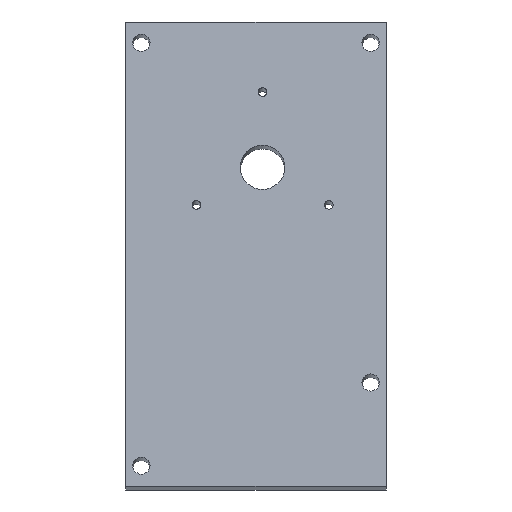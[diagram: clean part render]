
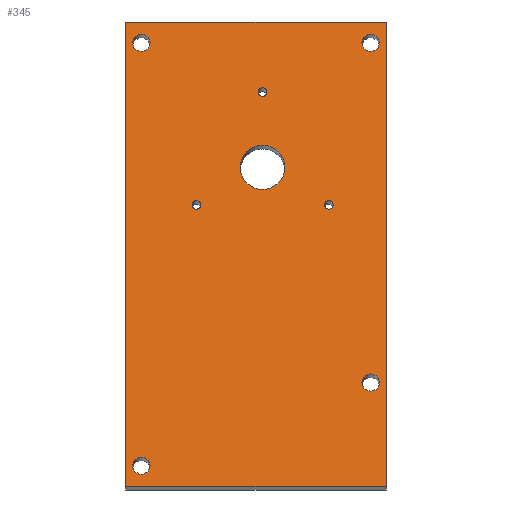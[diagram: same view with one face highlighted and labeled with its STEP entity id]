
A CAD part, front view. The second image highlights one B-rep face of the part: STEP entity #345.
In plain terms, the highlighted planar face has unit normal (0, -0.985, 0.174).
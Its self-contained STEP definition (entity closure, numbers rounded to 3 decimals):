
#37=CARTESIAN_POINT('',(-446.5,195.972,1570.117));
#38=VERTEX_POINT('',#37);
#45=CARTESIAN_POINT('',(-545.5,195.972,1570.117));
#46=VERTEX_POINT('',#45);
#47=CARTESIAN_POINT('',(-545.5,195.972,1570.117));
#48=DIRECTION('',(1.0,0.0,0.0));
#49=VECTOR('',#48,1.);
#50=LINE('',#47,#49);
#51=EDGE_CURVE('',#46,#38,#50,.T.);
#75=CARTESIAN_POINT('',(-446.5,227.041,1746.314));
#76=VERTEX_POINT('',#75);
#83=CARTESIAN_POINT('',(-446.5,195.972,1570.117));
#84=DIRECTION('',(0.,0.174,0.985));
#85=VECTOR('',#84,1.);
#86=LINE('',#83,#85);
#87=EDGE_CURVE('',#38,#76,#86,.T.);
#106=CARTESIAN_POINT('',(-545.5,227.041,1746.314));
#107=VERTEX_POINT('',#106);
#114=CARTESIAN_POINT('',(-446.5,227.041,1746.314));
#115=DIRECTION('',(-1.0,0.,0.));
#116=VECTOR('',#115,1.);
#117=LINE('',#114,#116);
#118=EDGE_CURVE('',#76,#107,#117,.T.);
#136=CARTESIAN_POINT('',(-545.5,227.041,1746.314));
#137=DIRECTION('',(0.,-0.174,-0.985));
#138=VECTOR('',#137,1.);
#139=LINE('',#136,#138);
#140=EDGE_CURVE('',#107,#46,#139,.T.);
#246=CARTESIAN_POINT('',(-545.5,195.972,1570.117));
#247=DIRECTION('',(0.0,-0.985,0.174));
#248=DIRECTION('',(1.0,0.0,0.0));
#249=AXIS2_PLACEMENT_3D('',#246,#247,#248);
#250=PLANE('',#249);
#251=ORIENTED_EDGE('',*,*,#51,.T.);
#252=ORIENTED_EDGE('',*,*,#87,.T.);
#253=ORIENTED_EDGE('',*,*,#118,.T.);
#254=ORIENTED_EDGE('',*,*,#140,.T.);
#255=EDGE_LOOP('',(#251,#252,#253,#254));
#256=FACE_OUTER_BOUND('',#255,.T.);
#257=CARTESIAN_POINT('',(-485.0,217.316,1691.165));
#258=VERTEX_POINT('',#257);
#259=CARTESIAN_POINT('',(-493.5,217.316,1691.165));
#260=DIRECTION('',(0.0,-0.985,0.174));
#261=DIRECTION('',(1.0,0.0,0.0));
#262=AXIS2_PLACEMENT_3D('',#259,#260,#261);
#263=CIRCLE('',#262,8.5);
#264=EDGE_CURVE('',#258,#258,#263,.T.);
#265=ORIENTED_EDGE('',*,*,#264,.F.);
#266=EDGE_LOOP('',(#265));
#267=FACE_BOUND('',#266,.T.);
#268=CARTESIAN_POINT('',(-491.85,222.352,1719.724));
#269=VERTEX_POINT('',#268);
#270=CARTESIAN_POINT('',(-493.5,222.352,1719.724));
#271=DIRECTION('',(0.0,0.985,-0.174));
#272=DIRECTION('',(1.0,0.0,0.0));
#273=AXIS2_PLACEMENT_3D('',#270,#271,#272);
#274=CIRCLE('',#273,1.65);
#275=EDGE_CURVE('',#269,#269,#274,.T.);
#276=ORIENTED_EDGE('',*,*,#275,.T.);
#277=EDGE_LOOP('',(#276));
#278=FACE_BOUND('',#277,.T.);
#279=CARTESIAN_POINT('',(-516.965,214.799,1676.885));
#280=VERTEX_POINT('',#279);
#281=CARTESIAN_POINT('',(-518.615,214.799,1676.885));
#282=DIRECTION('',(0.0,0.985,-0.174));
#283=DIRECTION('',(1.0,0.0,0.0));
#284=AXIS2_PLACEMENT_3D('',#281,#282,#283);
#285=CIRCLE('',#284,1.65);
#286=EDGE_CURVE('',#280,#280,#285,.T.);
#287=ORIENTED_EDGE('',*,*,#286,.T.);
#288=EDGE_LOOP('',(#287));
#289=FACE_BOUND('',#288,.T.);
#290=CARTESIAN_POINT('',(-466.735,214.799,1676.885));
#291=VERTEX_POINT('',#290);
#292=CARTESIAN_POINT('',(-468.385,214.799,1676.885));
#293=DIRECTION('',(0.0,0.985,-0.174));
#294=DIRECTION('',(1.0,0.0,0.0));
#295=AXIS2_PLACEMENT_3D('',#292,#293,#294);
#296=CIRCLE('',#295,1.65);
#297=EDGE_CURVE('',#291,#291,#296,.T.);
#298=ORIENTED_EDGE('',*,*,#297,.T.);
#299=EDGE_LOOP('',(#298));
#300=FACE_BOUND('',#299,.T.);
#301=CARTESIAN_POINT('',(-536.2,225.652,1738.435));
#302=VERTEX_POINT('',#301);
#303=CARTESIAN_POINT('',(-539.5,225.652,1738.435));
#304=DIRECTION('',(0.0,0.985,-0.174));
#305=DIRECTION('',(1.0,0.0,0.0));
#306=AXIS2_PLACEMENT_3D('',#303,#304,#305);
#307=CIRCLE('',#306,3.3);
#308=EDGE_CURVE('',#302,#302,#307,.T.);
#309=ORIENTED_EDGE('',*,*,#308,.T.);
#310=EDGE_LOOP('',(#309));
#311=FACE_BOUND('',#310,.T.);
#312=CARTESIAN_POINT('',(-449.2,225.652,1738.435));
#313=VERTEX_POINT('',#312);
#314=CARTESIAN_POINT('',(-452.5,225.652,1738.435));
#315=DIRECTION('',(0.0,0.985,-0.174));
#316=DIRECTION('',(1.0,0.0,0.0));
#317=AXIS2_PLACEMENT_3D('',#314,#315,#316);
#318=CIRCLE('',#317,3.3);
#319=EDGE_CURVE('',#313,#313,#318,.T.);
#320=ORIENTED_EDGE('',*,*,#319,.T.);
#321=EDGE_LOOP('',(#320));
#322=FACE_BOUND('',#321,.T.);
#323=CARTESIAN_POINT('',(-536.2,197.362,1577.995));
#324=VERTEX_POINT('',#323);
#325=CARTESIAN_POINT('',(-539.5,197.362,1577.995));
#326=DIRECTION('',(0.0,0.985,-0.174));
#327=DIRECTION('',(1.0,0.0,0.0));
#328=AXIS2_PLACEMENT_3D('',#325,#326,#327);
#329=CIRCLE('',#328,3.3);
#330=EDGE_CURVE('',#324,#324,#329,.T.);
#331=ORIENTED_EDGE('',*,*,#330,.T.);
#332=EDGE_LOOP('',(#331));
#333=FACE_BOUND('',#332,.T.);
#334=CARTESIAN_POINT('',(-449.2,202.918,1609.509));
#335=VERTEX_POINT('',#334);
#336=CARTESIAN_POINT('',(-452.5,202.918,1609.509));
#337=DIRECTION('',(0.0,0.985,-0.174));
#338=DIRECTION('',(1.0,0.0,0.0));
#339=AXIS2_PLACEMENT_3D('',#336,#337,#338);
#340=CIRCLE('',#339,3.3);
#341=EDGE_CURVE('',#335,#335,#340,.T.);
#342=ORIENTED_EDGE('',*,*,#341,.T.);
#343=EDGE_LOOP('',(#342));
#344=FACE_BOUND('',#343,.T.);
#345=ADVANCED_FACE('',(#256,#267,#278,#289,#300,#311,#322,#333,#344),#250,.T.);
